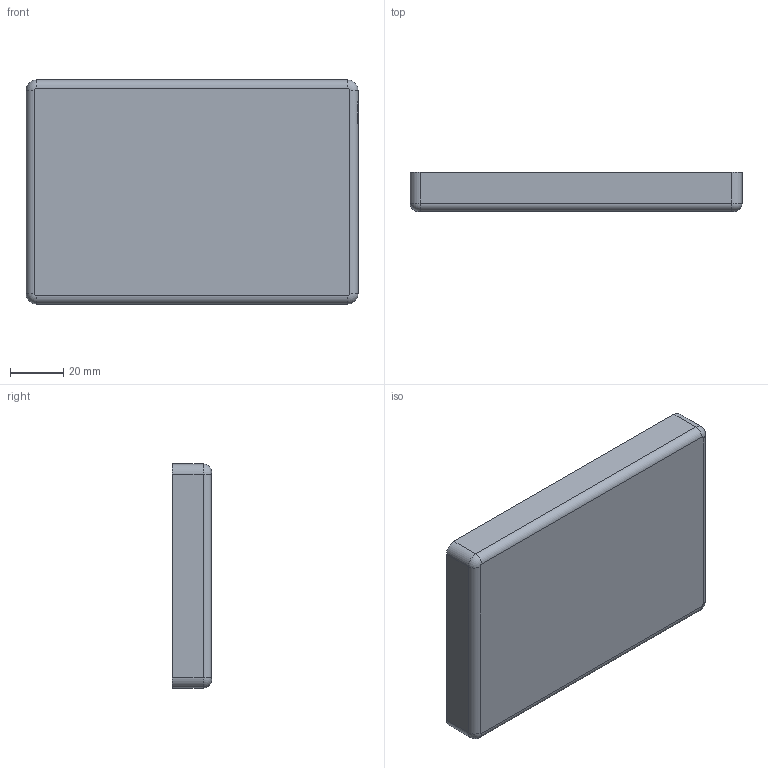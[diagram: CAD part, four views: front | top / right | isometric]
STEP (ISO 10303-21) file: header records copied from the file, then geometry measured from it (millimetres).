
FILE_DESCRIPTION(/* description */ ('STEP AP242 Edition 2','CAx-IF Rec.Pracs.---Representation and Presentation of Product Manufacturing Information (PMI)---4.0---2014-10-13','CAx-IF Rec.Pracs.---3D Tessellated Geometry---0.4---2014-09-14','2;1','CAx-IF Rec.Pracs.---User Defined Attributes---1.5---2016-08-15'),/* implementation_level */ '2;1');
FILE_NAME(/* name */ 'Assembly 1 - Part 55',/* time_stamp */ '2026-10-04T00:08:39Z',/* author */ (''),/* organization */ (''),/* preprocessor_version */ 'ST-DEVELOPER v20',/* originating_system */ 'ONSHAPE BY PTC INC, 1.221',/* authorisation */ ' ');
FILE_SCHEMA (('AP242_MANAGED_MODEL_BASED_3D_ENGINEERING_MIM_LF { 1 0 10303 442 3 1 4 }'));
Length unit declared in the file: metre
Products named in the file (1): Part 55
Bounding box: 125.28 x 14.8 x 84.56 mm (x, y, z)
Volume: 26828.6 mm3; surface area: 31861 mm2
Topology: 1 solids, 1 shells, 34 faces, 91 edges, 58 vertices
Faces by surface type: cylinder 16, plane 14, torus 4
Entity records: 1098 total; most frequent: DIRECTION 196, CARTESIAN_POINT 193, ORIENTED_EDGE 182, EDGE_CURVE 91, AXIS2_PLACEMENT_3D 73, VERTEX_POINT 58, LINE 50, VECTOR 50
